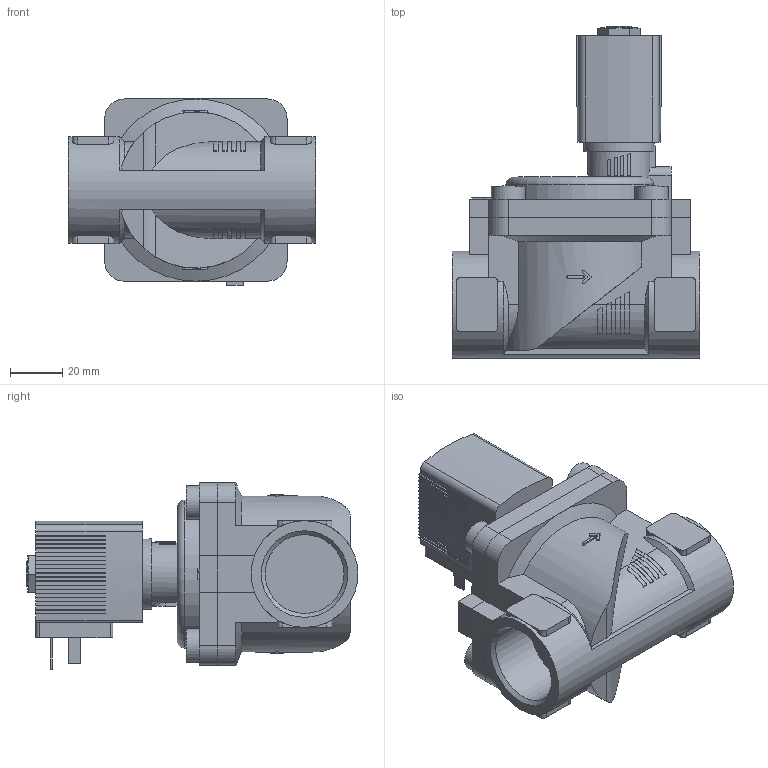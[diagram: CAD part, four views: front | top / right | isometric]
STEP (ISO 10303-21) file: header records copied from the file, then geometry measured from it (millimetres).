
FILE_DESCRIPTION(/* description */ ('STEP AP214'),/* implementation_level */ '2;1');
FILE_NAME(/* name */ '6281-252181-2_2-Way_Solenoid_Valve__Servo-assisted__General_Purpose',/* time_stamp */ '2024-08-25T01:19:27+02:00',/* author */ ('License CC BY-ND 4.0'),/* organization */ ('CADENAS'),/* preprocessor_version */ 'ST-DEVELOPER v19.3',/* originating_system */ 'PARTsolutions',/* authorisation */ ' ');
FILE_SCHEMA (('AUTOMOTIVE_DESIGN {1 0 10303 214 3 1 1}'));
Length unit declared in the file: millimetre
Products named in the file (4): 6281-252181-2/2-Way Solenoid Valve, Servo-assisted, General Purpose; 5281ev250VA2/2-Wege-Magnetventil mit Servomembran-Deckel   ; 6213-25G1VA-Gehaeuse-; AC10ex-5OO-Plan-Coil
Assembly tree (3 placements, depth 2):
  6281-252181-2/2-Way Solenoid Valve, Servo-assisted, General Purpose
    5281ev250VA2/2-Wege-Magnetventil mit Servomembran-Deckel   
    6213-25G1VA-Gehaeuse-
    AC10ex-5OO-Plan-Coil
Bounding box: 95 x 127.5 x 71.5 mm (x, y, z)
Volume: 298249.3 mm3; surface area: 55009.6 mm2
Topology: 3 solids, 3 shells, 543 faces, 1518 edges, 1006 vertices
Faces by surface type: plane 439, cylinder 88, cone 15, torus 1
Full cylindrical faces by diameter (mm): 2.013 x1, 9.74 x1, 13 x4, 27 x1, 30.291 x2, 41 x1
Entity records: 19986 total; most frequent: CARTESIAN_POINT 3300, ORIENTED_EDGE 2988, DIRECTION 2826, EDGE_CURVE 1494, LINE 1114, VECTOR 1114, VERTEX_POINT 998, AXIS2_PLACEMENT_3D 856
